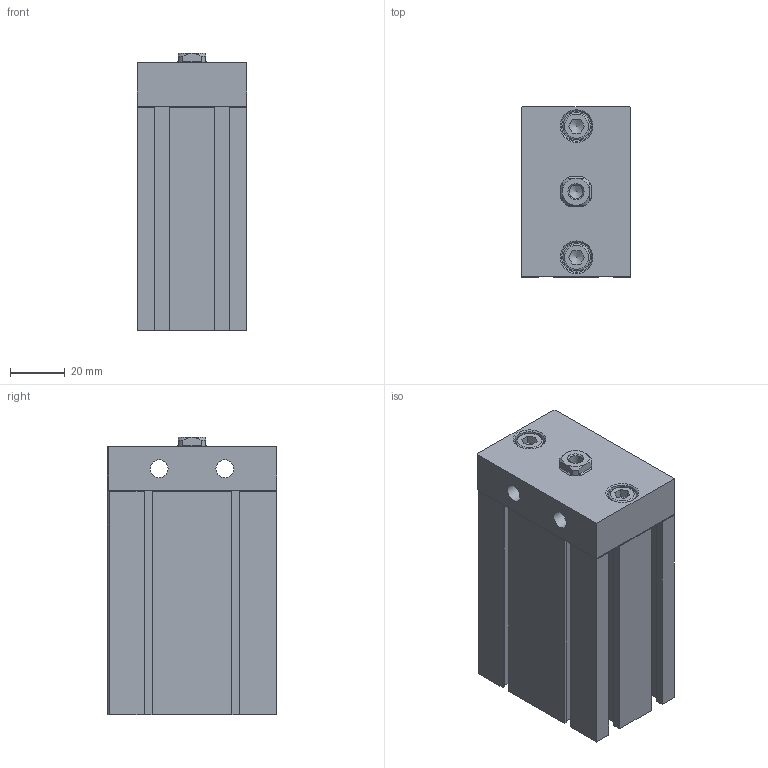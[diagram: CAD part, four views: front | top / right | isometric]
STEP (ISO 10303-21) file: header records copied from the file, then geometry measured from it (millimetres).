
FILE_DESCRIPTION((''),'2;1');
FILE_NAME('I:\3D電子目錄\氣缸\ND\ND\ND32\ND32x50.stp','2007-07-30T20:19:26',('Administrator'),(''),'Autodesk Inventor 11','Autodesk Inventor 11','');
FILE_SCHEMA(('AUTOMOTIVE_DESIGN { 1 0 10303 214 1 1 1 1 }'));
Length unit declared in the file: millimetre
Products named in the file (4): ND32; R 形環 34; ISO 4762 M6 x 16
Assembly tree (4 placements, depth 2):
  ND32
    ND32
    R 形環 34
    ISO 4762 M6 x 16  x2
Bounding box: 40 x 62.1 x 101.5 mm (x, y, z)
Volume: 216882.9 mm3; surface area: 40831.8 mm2
Topology: 5 solids, 5 shells, 195 faces, 467 edges, 297 vertices
Faces by surface type: plane 133, cylinder 25, cone 18, bspline 16, torus 3
Full cylindrical faces by diameter (mm): 1.9 x2, 2.2 x2, 6 x2, 6.5 x2, 10 x2, 11 x2, 23 x1, 34 x1, 36 x1
Entity records: 5217 total; most frequent: CARTESIAN_POINT 1095, DIRECTION 812, ORIENTED_EDGE 782, EDGE_CURVE 391, VECTOR 288, LINE 288, VERTEX_POINT 271, AXIS2_PLACEMENT_3D 262
